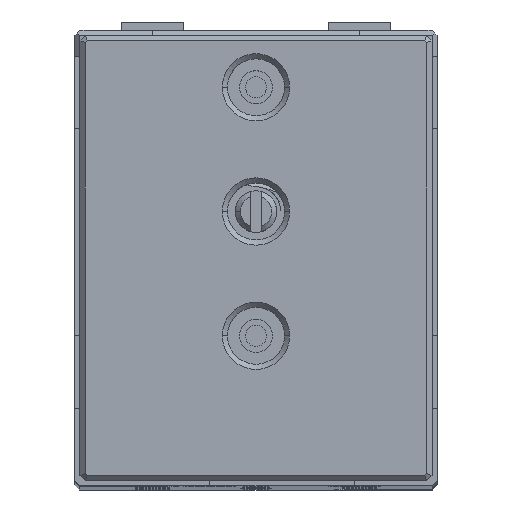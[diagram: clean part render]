
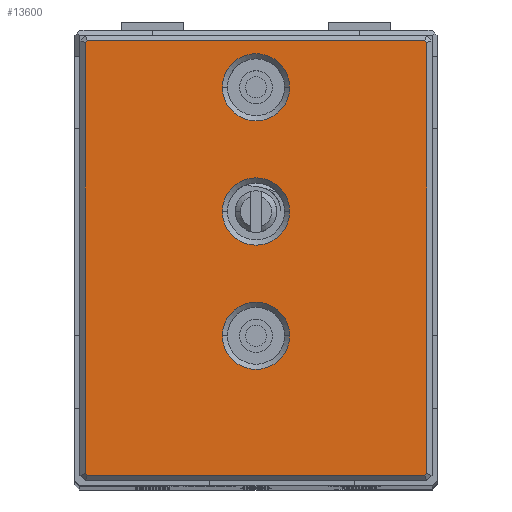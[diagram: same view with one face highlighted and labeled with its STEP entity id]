
A CAD part, top view. The second image highlights one B-rep face of the part: STEP entity #13600.
In plain terms, the highlighted planar face has unit normal (0, 0, 1).
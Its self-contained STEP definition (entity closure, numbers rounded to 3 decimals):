
#49 = CARTESIAN_POINT ( 'NONE',  ( 0.854, 0.354, 5. ) ) ;
#1259 = ORIENTED_EDGE ( 'NONE', *, *, #41619, .T. ) ;
#1423 = DIRECTION ( 'NONE',  ( 0., 0., -1. ) ) ;
#1432 = ORIENTED_EDGE ( 'NONE', *, *, #36694, .T. ) ;
#1689 = DIRECTION ( 'NONE',  ( 0., 0., -1. ) ) ;
#1748 = LINE ( 'NONE', #9858, #45394 ) ;
#1802 = EDGE_CURVE ( 'NONE', #26483, #47481, #1748, .T. ) ;
#1989 = EDGE_LOOP ( 'NONE', ( #4234, #40341 ) ) ;
#2176 = LINE ( 'NONE', #16951, #33181 ) ;
#2238 = EDGE_CURVE ( 'NONE', #13052, #26669, #32324, .T. ) ;
#2359 = LINE ( 'NONE', #17370, #3076 ) ;
#2898 = CARTESIAN_POINT ( 'NONE',  ( 0., 0., 5. ) ) ;
#2926 = CARTESIAN_POINT ( 'NONE',  ( 13.75, 26., 5. ) ) ;
#3075 = AXIS2_PLACEMENT_3D ( 'NONE', #23579, #1423, #9045 ) ;
#3076 = VECTOR ( 'NONE', #32408, 1000. ) ;
#3784 = VERTEX_POINT ( 'NONE', #27298 ) ;
#4043 = AXIS2_PLACEMENT_3D ( 'NONE', #6588, #21612, #20889 ) ;
#4234 = ORIENTED_EDGE ( 'NONE', *, *, #2238, .T. ) ;
#4246 = DIRECTION ( 'NONE',  ( 0., -1., 0. ) ) ;
#5121 = AXIS2_PLACEMENT_3D ( 'NONE', #46644, #12938, #30944 ) ;
#5567 = CARTESIAN_POINT ( 'NONE',  ( 33.646, 0.854, 5. ) ) ;
#6027 = CARTESIAN_POINT ( 'NONE',  ( 13.75, 38., 5. ) ) ;
#6579 = FACE_BOUND ( 'NONE', #1989, .T. ) ;
#6588 = CARTESIAN_POINT ( 'NONE',  ( 17., 38., 5. ) ) ;
#7147 = AXIS2_PLACEMENT_3D ( 'NONE', #2898, #40536, #22085 ) ;
#7366 = ORIENTED_EDGE ( 'NONE', *, *, #8766, .T. ) ;
#7537 = VERTEX_POINT ( 'NONE', #6027 ) ;
#8314 = ORIENTED_EDGE ( 'NONE', *, *, #39800, .T. ) ;
#8766 = EDGE_CURVE ( 'NONE', #3784, #7537, #36072, .T. ) ;
#8810 = AXIS2_PLACEMENT_3D ( 'NONE', #10528, #32702, #47679 ) ;
#9045 = DIRECTION ( 'NONE',  ( 1., 0., 0. ) ) ;
#9858 = CARTESIAN_POINT ( 'NONE',  ( 33.5, 42.5, 5. ) ) ;
#10265 = VECTOR ( 'NONE', #37950, 1000. ) ;
#10528 = CARTESIAN_POINT ( 'NONE',  ( 17., 14., 5. ) ) ;
#10758 = VERTEX_POINT ( 'NONE', #26849 ) ;
#10789 = DIRECTION ( 'NONE',  ( 1., 0., 0. ) ) ;
#11481 = FACE_OUTER_BOUND ( 'NONE', #35713, .T. ) ;
#12124 = VECTOR ( 'NONE', #4246, 1000. ) ;
#12547 = VERTEX_POINT ( 'NONE', #29833 ) ;
#12614 = CARTESIAN_POINT ( 'NONE',  ( 33.5, 42.293, 5. ) ) ;
#12938 = DIRECTION ( 'NONE',  ( 0., 0., -1. ) ) ;
#13052 = VERTEX_POINT ( 'NONE', #37171 ) ;
#13600 = ADVANCED_FACE ( 'NONE', ( #11481, #6579, #25780, #40769 ), #21604, .T. ) ;
#13760 = CIRCLE ( 'NONE', #5121, 3.25 ) ;
#13995 = EDGE_CURVE ( 'NONE', #16881, #35235, #26141, .T. ) ;
#14020 = ORIENTED_EDGE ( 'NONE', *, *, #33156, .T. ) ;
#14223 = CIRCLE ( 'NONE', #4043, 3.25 ) ;
#14401 = CARTESIAN_POINT ( 'NONE',  ( 0.5, 42.293, 5. ) ) ;
#15052 = EDGE_CURVE ( 'NONE', #24317, #23352, #2176, .T. ) ;
#15168 = EDGE_CURVE ( 'NONE', #7537, #3784, #14223, .T. ) ;
#15245 = DIRECTION ( 'NONE',  ( -1., 0., 0. ) ) ;
#16881 = VERTEX_POINT ( 'NONE', #31430 ) ;
#16951 = CARTESIAN_POINT ( 'NONE',  ( 0.354, 42.146, 5. ) ) ;
#17370 = CARTESIAN_POINT ( 'NONE',  ( 33.146, 42.646, 5. ) ) ;
#18215 = VECTOR ( 'NONE', #15245, 1000. ) ;
#18226 = CARTESIAN_POINT ( 'NONE',  ( 13.75, 14., 5. ) ) ;
#18471 = CARTESIAN_POINT ( 'NONE',  ( 0.5, 42.5, 5. ) ) ;
#20587 = DIRECTION ( 'NONE',  ( 0.707, 0.707, 0. ) ) ;
#20889 = DIRECTION ( 'NONE',  ( 1., 0., 0. ) ) ;
#21604 = PLANE ( 'NONE',  #7147 ) ;
#21612 = DIRECTION ( 'NONE',  ( 0., 0., -1. ) ) ;
#21685 = CARTESIAN_POINT ( 'NONE',  ( 0.707, 42.5, 5. ) ) ;
#22085 = DIRECTION ( 'NONE',  ( 1., 0., 0. ) ) ;
#22139 = EDGE_CURVE ( 'NONE', #10758, #24317, #33502, .T. ) ;
#22989 = VECTOR ( 'NONE', #20587, 1000. ) ;
#23186 = EDGE_CURVE ( 'NONE', #47481, #10758, #2359, .T. ) ;
#23190 = CARTESIAN_POINT ( 'NONE',  ( 0.5, 0.5, 5. ) ) ;
#23352 = VERTEX_POINT ( 'NONE', #14401 ) ;
#23579 = CARTESIAN_POINT ( 'NONE',  ( 17., 38., 5. ) ) ;
#23890 = EDGE_CURVE ( 'NONE', #23352, #16881, #35251, .T. ) ;
#24028 = AXIS2_PLACEMENT_3D ( 'NONE', #41196, #41674, #45356 ) ;
#24317 = VERTEX_POINT ( 'NONE', #21685 ) ;
#25045 = ORIENTED_EDGE ( 'NONE', *, *, #15052, .T. ) ;
#25780 = FACE_BOUND ( 'NONE', #30004, .T. ) ;
#26141 = LINE ( 'NONE', #49, #10265 ) ;
#26259 = ORIENTED_EDGE ( 'NONE', *, *, #23186, .T. ) ;
#26483 = VERTEX_POINT ( 'NONE', #28045 ) ;
#26669 = VERTEX_POINT ( 'NONE', #2926 ) ;
#26849 = CARTESIAN_POINT ( 'NONE',  ( 33.293, 42.5, 5. ) ) ;
#27298 = CARTESIAN_POINT ( 'NONE',  ( 20.25, 38., 5. ) ) ;
#27652 = EDGE_CURVE ( 'NONE', #26669, #13052, #46775, .T. ) ;
#28045 = CARTESIAN_POINT ( 'NONE',  ( 33.5, 0.707, 5. ) ) ;
#29833 = CARTESIAN_POINT ( 'NONE',  ( 33.293, 0.5, 5. ) ) ;
#30004 = EDGE_LOOP ( 'NONE', ( #14020, #8314 ) ) ;
#30479 = ORIENTED_EDGE ( 'NONE', *, *, #22139, .T. ) ;
#30944 = DIRECTION ( 'NONE',  ( 1., 0., 0. ) ) ;
#31430 = CARTESIAN_POINT ( 'NONE',  ( 0.5, 0.707, 5. ) ) ;
#31999 = CARTESIAN_POINT ( 'NONE',  ( 20.25, 14., 5. ) ) ;
#32324 = CIRCLE ( 'NONE', #34803, 3.25 ) ;
#32408 = DIRECTION ( 'NONE',  ( -0.707, 0.707, 0. ) ) ;
#32702 = DIRECTION ( 'NONE',  ( 0., 0., -1. ) ) ;
#33156 = EDGE_CURVE ( 'NONE', #45792, #43118, #46527, .T. ) ;
#33181 = VECTOR ( 'NONE', #43731, 1000. ) ;
#33502 = LINE ( 'NONE', #18471, #18215 ) ;
#34803 = AXIS2_PLACEMENT_3D ( 'NONE', #42769, #1689, #46956 ) ;
#35235 = VERTEX_POINT ( 'NONE', #41746 ) ;
#35251 = LINE ( 'NONE', #23190, #12124 ) ;
#35713 = EDGE_LOOP ( 'NONE', ( #46207, #39070, #1432, #1259, #42266, #26259, #30479, #25045 ) ) ;
#36072 = CIRCLE ( 'NONE', #3075, 3.25 ) ;
#36199 = DIRECTION ( 'NONE',  ( 0., 1., 0. ) ) ;
#36694 = EDGE_CURVE ( 'NONE', #35235, #12547, #37384, .T. ) ;
#37171 = CARTESIAN_POINT ( 'NONE',  ( 20.25, 26., 5. ) ) ;
#37384 = LINE ( 'NONE', #48662, #46715 ) ;
#37811 = ORIENTED_EDGE ( 'NONE', *, *, #15168, .T. ) ;
#37950 = DIRECTION ( 'NONE',  ( 0.707, -0.707, 0. ) ) ;
#39070 = ORIENTED_EDGE ( 'NONE', *, *, #13995, .T. ) ;
#39269 = LINE ( 'NONE', #5567, #22989 ) ;
#39800 = EDGE_CURVE ( 'NONE', #43118, #45792, #13760, .T. ) ;
#40341 = ORIENTED_EDGE ( 'NONE', *, *, #27652, .T. ) ;
#40536 = DIRECTION ( 'NONE',  ( 0., 0., 1. ) ) ;
#40769 = FACE_BOUND ( 'NONE', #43556, .T. ) ;
#41196 = CARTESIAN_POINT ( 'NONE',  ( 17., 26., 5. ) ) ;
#41619 = EDGE_CURVE ( 'NONE', #12547, #26483, #39269, .T. ) ;
#41674 = DIRECTION ( 'NONE',  ( 0., 0., -1. ) ) ;
#41746 = CARTESIAN_POINT ( 'NONE',  ( 0.707, 0.5, 5. ) ) ;
#42266 = ORIENTED_EDGE ( 'NONE', *, *, #1802, .T. ) ;
#42769 = CARTESIAN_POINT ( 'NONE',  ( 17., 26., 5. ) ) ;
#43118 = VERTEX_POINT ( 'NONE', #18226 ) ;
#43556 = EDGE_LOOP ( 'NONE', ( #7366, #37811 ) ) ;
#43731 = DIRECTION ( 'NONE',  ( -0.707, -0.707, 0. ) ) ;
#45356 = DIRECTION ( 'NONE',  ( 1., 0., 0. ) ) ;
#45394 = VECTOR ( 'NONE', #36199, 1000. ) ;
#45792 = VERTEX_POINT ( 'NONE', #31999 ) ;
#46207 = ORIENTED_EDGE ( 'NONE', *, *, #23890, .T. ) ;
#46527 = CIRCLE ( 'NONE', #8810, 3.25 ) ;
#46644 = CARTESIAN_POINT ( 'NONE',  ( 17., 14., 5. ) ) ;
#46715 = VECTOR ( 'NONE', #10789, 1000. ) ;
#46775 = CIRCLE ( 'NONE', #24028, 3.25 ) ;
#46956 = DIRECTION ( 'NONE',  ( 1., 0., 0. ) ) ;
#47481 = VERTEX_POINT ( 'NONE', #12614 ) ;
#47679 = DIRECTION ( 'NONE',  ( 1., 0., 0. ) ) ;
#48662 = CARTESIAN_POINT ( 'NONE',  ( 33.5, 0.5, 5. ) ) ;
